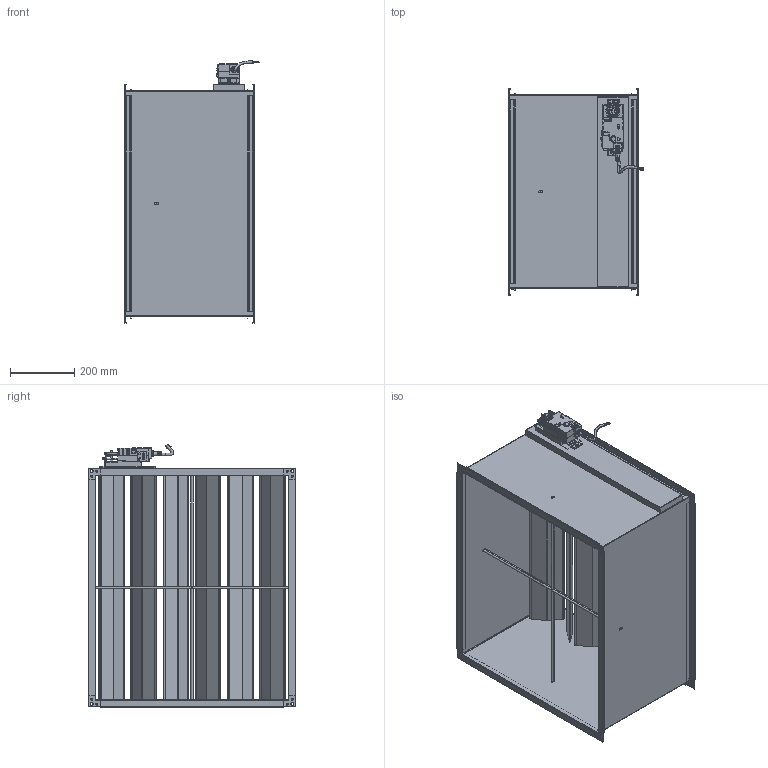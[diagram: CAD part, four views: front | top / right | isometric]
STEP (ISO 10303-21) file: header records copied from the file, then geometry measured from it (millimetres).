
FILE_DESCRIPTION (( 'STEP AP214' ), '1' );
FILE_NAME ('VAV-S700600.STEP', '2025-05-08T11:45:36', ( '' ), ( '' ), 'SwSTEP 2.0', 'SolidWorks 2025', '' );
FILE_SCHEMA (( 'AUTOMOTIVE_DESIGN' ));
Length unit declared in the file: millimetre
Products named in the file (1): VAV-S700600
Bounding box: 420.26 x 641 x 813.69 mm (x, y, z)
Surface area: 4132515.3 mm2 (no closed solid volume)
Topology: 0 solids, 48 shells, 2116 faces, 5530 edges, 3518 vertices
Faces by surface type: plane 1547, cylinder 516, bspline 24, sphere 18, cone 10, torus 1
Full cylindrical faces by diameter (mm): 1 x4, 6 x17, 8 x1, 9 x8, 11 x1, 20 x1, 21 x2
Entity records: 92360 total; most frequent: CARTESIAN_POINT 41466, ORIENTED_EDGE 10841, DIRECTION 7036, EDGE_CURVE 5444, VERTEX_POINT 3491, B_SPLINE_CURVE_WITH_KNOTS 3154, AXIS2_PLACEMENT_3D 2677, EDGE_LOOP 2324
